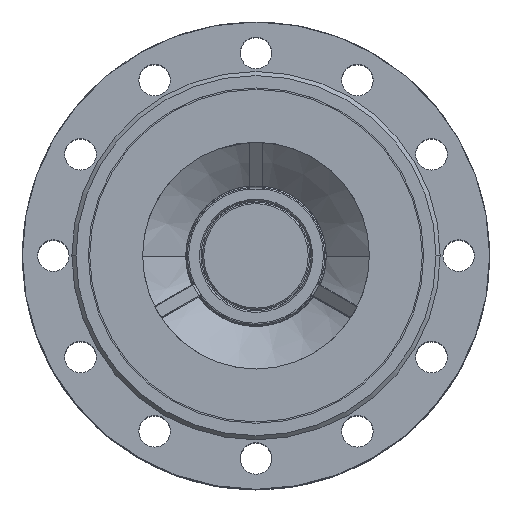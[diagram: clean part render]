
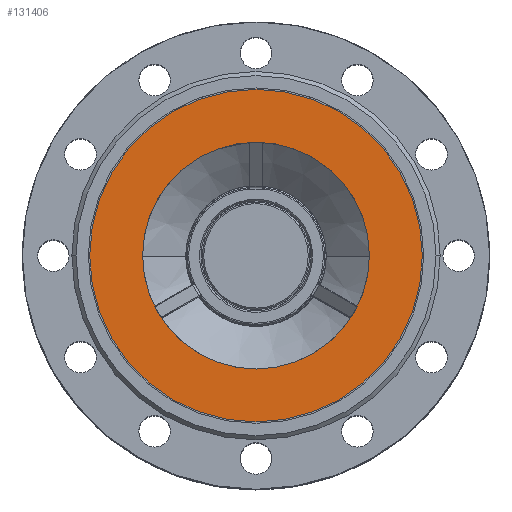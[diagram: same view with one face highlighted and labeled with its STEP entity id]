
A CAD part, top view. The second image highlights one B-rep face of the part: STEP entity #131406.
In plain terms, the highlighted planar face has unit normal (0, 0, 1).
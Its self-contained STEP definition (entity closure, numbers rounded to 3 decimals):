
#1640 = AXIS2_PLACEMENT_3D ( 'NONE', #47539, #154066, #62871 ) ;
#5635 = DIRECTION ( 'NONE',  ( 0., 0., -1. ) ) ;
#5710 = PLANE ( 'NONE',  #137973 ) ;
#22885 = DIRECTION ( 'NONE',  ( 0., 0., -1. ) ) ;
#23942 = CIRCLE ( 'NONE', #1640, 121. ) ;
#31556 = CARTESIAN_POINT ( 'NONE',  ( -121., 0., 150.5 ) ) ;
#39814 = VERTEX_POINT ( 'NONE', #101083 ) ;
#47539 = CARTESIAN_POINT ( 'NONE',  ( 0., 0., 150.5 ) ) ;
#51847 = VERTEX_POINT ( 'NONE', #94328 ) ;
#52532 = DIRECTION ( 'NONE',  ( 0., 0., -1. ) ) ;
#54339 = DIRECTION ( 'NONE',  ( 1., 0., 0. ) ) ;
#56679 = EDGE_LOOP ( 'NONE', ( #65540, #118964 ) ) ;
#62871 = DIRECTION ( 'NONE',  ( 1., 0., 0. ) ) ;
#65540 = ORIENTED_EDGE ( 'NONE', *, *, #155244, .F. ) ;
#76243 = EDGE_CURVE ( 'NONE', #142255, #51847, #185188, .T. ) ;
#79786 = AXIS2_PLACEMENT_3D ( 'NONE', #96944, #5635, #112248 ) ;
#87466 = ORIENTED_EDGE ( 'NONE', *, *, #106059, .T. ) ;
#94328 = CARTESIAN_POINT ( 'NONE',  ( 121., 0., 150.5 ) ) ;
#95967 = FACE_OUTER_BOUND ( 'NONE', #56679, .T. ) ;
#96944 = CARTESIAN_POINT ( 'NONE',  ( 0., 0., 150.5 ) ) ;
#101083 = CARTESIAN_POINT ( 'NONE',  ( -82.5, 0., 150.5 ) ) ;
#101336 = CIRCLE ( 'NONE', #108152, 82.5 ) ;
#105532 = FACE_BOUND ( 'NONE', #120029, .T. ) ;
#106059 = EDGE_CURVE ( 'NONE', #128511, #39814, #101336, .T. ) ;
#108152 = AXIS2_PLACEMENT_3D ( 'NONE', #114132, #22885, #129467 ) ;
#112248 = DIRECTION ( 'NONE',  ( 1., 0., 0. ) ) ;
#114132 = CARTESIAN_POINT ( 'NONE',  ( 0., 0., 150.5 ) ) ;
#118964 = ORIENTED_EDGE ( 'NONE', *, *, #76243, .F. ) ;
#120029 = EDGE_LOOP ( 'NONE', ( #87466, #194714 ) ) ;
#121845 = CARTESIAN_POINT ( 'NONE',  ( 82.5, 0., 150.5 ) ) ;
#128511 = VERTEX_POINT ( 'NONE', #121845 ) ;
#129467 = DIRECTION ( 'NONE',  ( 1., 0., 0. ) ) ;
#130290 = CARTESIAN_POINT ( 'NONE',  ( 0., 0., 150.5 ) ) ;
#131406 = ADVANCED_FACE ( 'NONE', ( #105532, #95967 ), #5710, .T. ) ;
#137973 = AXIS2_PLACEMENT_3D ( 'NONE', #130290, #145590, #54339 ) ;
#142255 = VERTEX_POINT ( 'NONE', #31556 ) ;
#143774 = CARTESIAN_POINT ( 'NONE',  ( 0., 0., 150.5 ) ) ;
#145590 = DIRECTION ( 'NONE',  ( 0., 0., 1. ) ) ;
#154066 = DIRECTION ( 'NONE',  ( 0., 0., -1. ) ) ;
#155244 = EDGE_CURVE ( 'NONE', #51847, #142255, #23942, .T. ) ;
#159055 = DIRECTION ( 'NONE',  ( 1., 0., 0. ) ) ;
#164403 = CIRCLE ( 'NONE', #183131, 82.5 ) ;
#175375 = EDGE_CURVE ( 'NONE', #39814, #128511, #164403, .T. ) ;
#183131 = AXIS2_PLACEMENT_3D ( 'NONE', #143774, #52532, #159055 ) ;
#185188 = CIRCLE ( 'NONE', #79786, 121. ) ;
#194714 = ORIENTED_EDGE ( 'NONE', *, *, #175375, .T. ) ;
